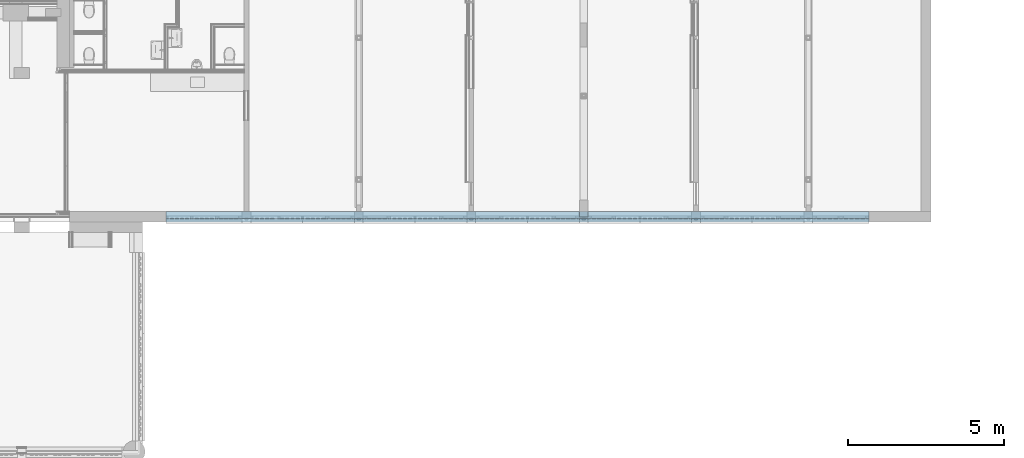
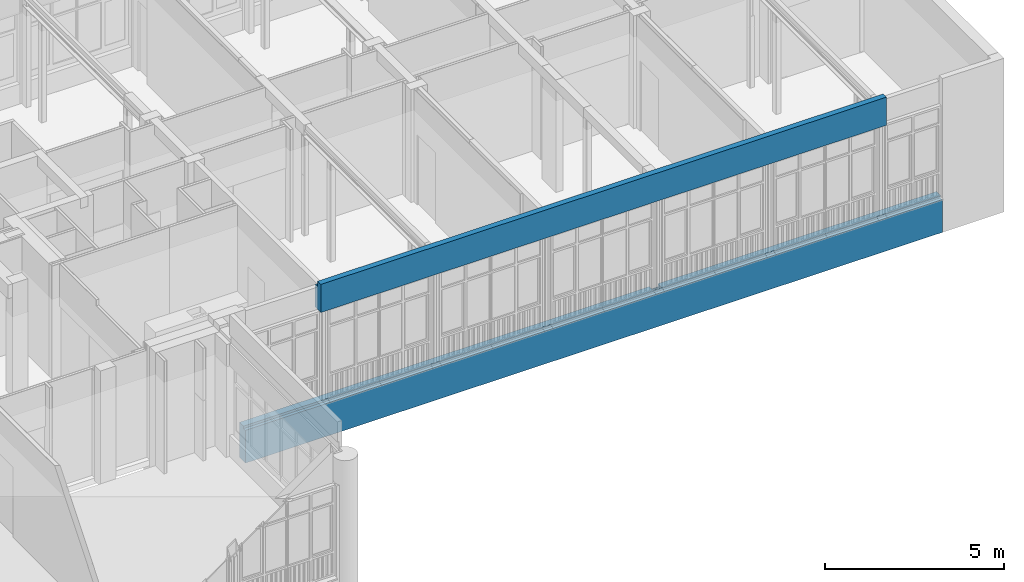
# One storey, part 92 of 135: 1 wall, 12 openings.
"""IFC2X3 building model written with IfcOpenShell, lengths in millimetres."""

from ifc_helpers import new_model, entity, si_unit, converted_unit, derived_unit, money_unit, direction, frame, origin_with_axes, place, context, subcontext, project, spatial, faceted_brep, material, type_object, element, save


model = new_model("IFC2X3")

# Units and contexts
model_context = context("Model", 3, precision=0.01, world=origin_with_axes(), true_north=direction((0.0, 1.0)))
body_context = subcontext(model_context, "Body", "Model", "MODEL_VIEW")
ifc_project = project(units=[si_unit("LENGTHUNIT", "METRE", prefix="MILLI"), si_unit("AREAUNIT", "SQUARE_METRE"), si_unit("VOLUMEUNIT", "CUBIC_METRE"), converted_unit("PLANEANGLEUNIT", "DEGREE", entity("IfcPlaneAngleMeasure", 0.0174532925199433), si_unit("PLANEANGLEUNIT", "RADIAN"), dimensions=[0, 0, 0, 0, 0, 0, 0]), money_unit("EUR"), converted_unit("TIMEUNIT", "Year", entity("IfcTimeMeasure", 31557600.0), si_unit("TIMEUNIT", "SECOND"), dimensions=[0, 0, 1, 0, 0, 0, 0]), si_unit("MASSUNIT", "GRAM", prefix="KILO"), si_unit("THERMODYNAMICTEMPERATUREUNIT", "DEGREE_CELSIUS"), si_unit("LUMINOUSINTENSITYUNIT", "LUMEN"), si_unit("ENERGYUNIT", "JOULE", prefix="MEGA"), derived_unit("THERMALCONDUCTANCEUNIT", [(si_unit("POWERUNIT", "WATT"), 1), (si_unit("LENGTHUNIT", "METRE"), -1), (si_unit("THERMODYNAMICTEMPERATUREUNIT", "KELVIN"), -1)]), derived_unit("SPECIFICHEATCAPACITYUNIT", [(si_unit("ENERGYUNIT", "JOULE"), 1), (si_unit("MASSUNIT", "GRAM", prefix="KILO"), -1), (si_unit("THERMODYNAMICTEMPERATUREUNIT", "KELVIN"), -1)]), derived_unit("MASSDENSITYUNIT", [(si_unit("MASSUNIT", "GRAM", prefix="KILO"), 1), (si_unit("VOLUMEUNIT", "CUBIC_METRE"), -1)])], contexts=[model_context])

# Site, building, storey
site_placement = place(None, origin_with_axes())
site = spatial("IfcSite", under=ifc_project, at=site_placement, Name="Site", CompositionType="ELEMENT")
building_placement = place(site_placement, origin_with_axes())
building = spatial("IfcBuilding", under=site, at=building_placement, Name="Naam gebouw", CompositionType="ELEMENT")
storey_placement = place(building_placement, origin_with_axes())
storey = spatial("IfcBuildingStorey", under=building, at=storey_placement, Name="Begane grond N", CompositionType="ELEMENT", Elevation=0.0)

# Wall, openings
ifc_material = material(Name="ALG - CONSTRUCTIEF")
wall_type = type_object("IfcWallType", Name="ALG - CONSTRUCTIEF 330", PredefinedType="NOTDEFINED")
wall_placement = place(storey_placement, frame((55937.49999999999, 10990.91242510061, -1200.0), z_axis=(0.0, 0.0, 1.0), x_axis=(-1.0, 0.0, 0.0)))
wall = element("IfcWall", 1, at=wall_placement, inside=storey, type_object=wall_type, material=ifc_material, Name="_Wand-x", context=body_context, shape_type="Brep", body=[
    faceted_brep([(20074.81802574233, 146.0000000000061, 5050.000000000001), (20074.81802574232, 146.0000000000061, 4290.0), (20074.99999999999, 146.0000000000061, 4290.0), (20074.99999999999, 146.0000000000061, 5250.000000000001), (1799.999999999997, 146.0000000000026, 5250.000000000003), (1799.999999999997, 146.0000000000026, 5050.000000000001), (8999.931661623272, 146.0000000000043, 5050.000000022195), (8999.931661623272, 146.0000000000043, 5150.0), (9274.935214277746, 146.0000000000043, 5150.0), (9274.935214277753, 146.0000000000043, 5050.000000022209), (20074.81802574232, 0.0, 4290.0), (20074.81802574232, 0.0, 5050.000000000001), (19799.99999999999, 260.0000000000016, 4290.0), (19799.99999999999, 216.0000000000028, 4290.0), (20074.99999999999, 216.0000000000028, 4290.0), (9274.43124712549, 0.0, 4290.0), (9274.99999999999, 164.5001742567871, 4290.0), (8999.998797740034, 165.4494284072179, 4290.0), (8999.427694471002, 0.0, 4290.0), (1799.999999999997, 0.0, 4290.0), (1799.999999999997, 145.999999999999, 4290.0), (1799.999999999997, 216.0000000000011, 4290.0), (2074.999999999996, 216.0000000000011, 4290.0), (2074.999999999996, 260.0000000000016, 4290.0), (1799.999999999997, 260.0000000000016, 4290.0), (1799.999999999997, 330.0000000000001, 4290.0), (20074.99999999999, 330.0000000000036, 4290.0), (20074.99999999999, 260.0000000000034, 4290.0), (5399.999999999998, 216.0000000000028, 4290.0), (5674.999999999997, 216.0000000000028, 4290.0), (5674.999999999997, 260.0000000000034, 4290.0), (5399.999999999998, 260.0000000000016, 4290.0), (9274.99999999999, 260.0000000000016, 4290.0), (8999.999999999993, 259.9999999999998, 4290.0), (8999.999999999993, 216.0000000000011, 4290.0), (9274.99999999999, 216.0000000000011, 4290.0), (12599.99999999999, 216.0000000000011, 4290.0), (12874.99999999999, 216.0000000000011, 4290.0), (12874.99999999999, 260.0000000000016, 4290.0), (12599.99999999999, 259.9999999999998, 4290.0), (16474.99999999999, 260.0000000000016, 4290.0), (16200.0, 259.9999999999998, 4290.0), (16200.0, 216.0000000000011, 4290.0), (16474.99999999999, 216.0000000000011, 4290.0), (20074.99999999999, 330.0000000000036, 5250.000000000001), (1799.999999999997, 330.0000000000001, 5250.000000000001), (8999.427694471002, 0.0, 5050.000000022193), (1799.999999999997, 0.0, 5050.000000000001), (8999.998797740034, 165.4494284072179, 5150.0), (9274.99907373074, 164.5001742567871, 5150.0), (9274.43124712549, 0.0, 5050.00000002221), (9262.499999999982, 164.543318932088, 5050.000000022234), (9262.499999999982, 164.543318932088, 4750.0), (9137.500000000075, 164.974797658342, 4750.0), (9137.500000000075, 164.974797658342, 5050.000000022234), (9262.499999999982, 164.974797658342, 5050.000000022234), (9262.499999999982, 164.974797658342, 4750.0)], [[[0, 1, 2, 3, 4, 5, 6, 7, 8, 9]], [[10, 1, 0, 11]], [[12, 13, 14, 2, 1, 10, 15, 16, 17, 18, 19, 20, 21, 22, 23, 24, 25, 26, 27], [28, 29, 30, 31], [32, 33, 34, 35], [36, 37, 38, 39], [40, 41, 42, 43]], [[26, 44, 3, 2, 14, 27]], [[45, 4, 3, 44]], [[20, 5, 4, 45, 25, 24, 21]], [[46, 6, 5, 47]], [[6, 46, 18, 17, 48, 7]], [[49, 8, 7, 48]], [[8, 49, 16, 15, 50, 9]], [[11, 0, 9, 50]], [[11, 50, 15, 10]], [[13, 12, 27, 14]], [[49, 48, 17, 16], [51, 52, 53, 54]], [[19, 18, 46, 47]], [[19, 47, 5, 20]], [[21, 24, 23, 22]], [[45, 44, 26, 25]], [[31, 30, 29, 28]], [[35, 34, 33, 32]], [[39, 38, 37, 36]], [[43, 42, 41, 40]], [[55, 56, 52, 51]], [[56, 53, 52]], [[56, 55, 54, 53]], [[54, 55, 51]]]),
    faceted_brep([(22514.99999999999, 225.0000000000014, 1200.000000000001), (20074.99999999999, 225.0000000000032, 1200.000000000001), (20074.99999999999, 216.0000000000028, 1200.000000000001), (19799.99999999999, 216.0000000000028, 1200.000000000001), (19799.99999999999, 225.0000000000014, 1200.000000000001), (16475.0, 225.0000000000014, 1200.000000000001), (16474.99999999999, 216.0000000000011, 1200.000000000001), (16200.0, 216.0000000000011, 1200.000000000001), (16199.99999999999, 224.9999999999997, 1200.000000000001), (12875.0, 225.0000000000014, 1200.000000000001), (12874.99999999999, 216.0000000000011, 1200.000000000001), (12599.99999999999, 216.0000000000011, 1200.000000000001), (12599.99999999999, 224.9999999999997, 1200.000000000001), (9274.999999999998, 225.0000000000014, 1200.000000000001), (9274.99999999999, 216.0000000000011, 1200.000000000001), (8999.999999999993, 216.0000000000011, 1200.0), (8999.999999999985, 224.9999999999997, 1200.0), (5674.999999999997, 225.0000000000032, 1200.0), (5674.999999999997, 216.0000000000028, 1200.0), (5399.999999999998, 216.0000000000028, 1200.0), (5399.999999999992, 225.0000000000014, 1200.0), (2075.000000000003, 225.0000000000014, 1200.0), (2074.999999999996, 216.0000000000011, 1200.0), (1799.999999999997, 216.0000000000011, 1200.0), (1799.999999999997, 224.9999999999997, 1200.0), (0.0, 225.0000000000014, 1200.0), (0.0, 146.0000000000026, 1200.0), (1799.999999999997, 145.999999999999, 1200.0), (1799.999999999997, 0.0, 1200.0), (8999.427694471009, 0.0, 1200.0), (8999.998797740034, 165.4494284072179, 1200.0), (9274.99999999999, 164.5001742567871, 1200.000000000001), (9274.431247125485, 0.0, 1200.0), (20074.81802574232, 0.0, 1200.000000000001), (20074.81802574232, 146.0000000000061, 1200.000000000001), (22514.99999999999, 146.0000000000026, 1200.000000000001), (20074.99999999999, 225.0000000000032, 1120.000000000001), (22514.99999999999, 225.0000000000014, 1120.000000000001), (19799.99999999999, 225.0000000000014, 1120.000000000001), (16475.0, 225.0000000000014, 1120.000000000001), (16199.99999999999, 224.9999999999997, 1120.000000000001), (12875.0, 225.0000000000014, 1120.000000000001), (12599.99999999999, 224.9999999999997, 1120.000000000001), (9274.999999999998, 225.0000000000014, 1120.000000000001), (8999.999999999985, 224.9999999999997, 1120.0), (5674.999999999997, 225.0000000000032, 1120.0), (5399.999999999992, 225.0000000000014, 1120.0), (2075.000000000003, 225.0000000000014, 1120.0), (1799.999999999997, 224.9999999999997, 1120.0), (0.0, 225.0000000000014, 1120.0), (0.0, 330.0000000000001, 1120.0), (0.0, 330.0000000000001, 0.0), (0.0, 0.0, 0.0), (0.0, 0.0, 1200.0), (22514.99999999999, 0.0, 1200.0), (9274.431247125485, 0.0, 1100.0), (8999.427694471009, 0.0, 1100.0), (22514.99999999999, 0.0, 0.0), (8999.998797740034, 165.4494284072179, 1100.0), (9274.99907373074, 164.5001742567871, 1100.0), (22514.99999999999, 330.0000000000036, 0.0), (22514.99999999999, 330.0000000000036, 1120.000000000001), (20074.99999999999, 330.0000000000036, 1120.000000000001), (19799.99999999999, 330.0000000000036, 1120.000000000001), (16475.0, 330.0000000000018, 1120.000000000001), (16199.99999999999, 330.0000000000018, 1120.000000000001), (12875.0, 330.0000000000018, 1120.000000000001), (12599.99999999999, 330.0000000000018, 1120.000000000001), (9274.999999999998, 330.0000000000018, 1120.000000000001), (8999.999999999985, 330.0000000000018, 1120.0), (5674.999999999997, 330.0000000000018, 1120.0), (5399.999999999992, 330.0000000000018, 1120.0), (2075.000000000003, 330.0000000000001, 1120.0), (1799.999999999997, 330.0000000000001, 1120.0)], [[[0, 1, 2, 3, 4, 5, 6, 7, 8, 9, 10, 11, 12, 13, 14, 15, 16, 17, 18, 19, 20, 21, 22, 23, 24, 25, 26, 27, 28, 29, 30, 31, 32, 33, 34, 35]], [[36, 1, 0, 37]], [[1, 4, 3, 2]], [[38, 39, 5, 4]], [[6, 5, 8, 7]], [[9, 8, 40, 41]], [[12, 11, 10, 9]], [[42, 43, 13, 12]], [[14, 13, 16, 15]], [[17, 16, 44, 45]], [[20, 19, 18, 17]], [[46, 47, 21, 20]], [[22, 21, 24, 23]], [[24, 48, 49, 25]], [[50, 51, 52, 53, 26, 25, 49]], [[28, 27, 26, 53]], [[54, 33, 32, 55, 56, 29, 28, 53, 52, 57]], [[29, 56, 58, 30]], [[30, 58, 59, 31]], [[31, 59, 55, 32]], [[34, 33, 54, 35]], [[37, 0, 35, 54, 57, 60, 61]], [[1, 36, 38, 4]], [[62, 36, 37, 61]], [[63, 64, 39, 38]], [[8, 5, 39, 40]], [[41, 40, 65, 66]], [[41, 42, 12, 9]], [[67, 68, 43, 42]], [[16, 13, 43, 44]], [[45, 44, 69, 70]], [[45, 46, 20, 17]], [[71, 72, 47, 46]], [[24, 21, 47, 48]], [[48, 73, 50, 49]], [[62, 61, 60, 51, 50, 73, 72, 71, 70, 69, 68, 67, 66, 65, 64, 63]], [[51, 60, 57, 52]], [[59, 58, 56, 55]], [[36, 62, 63, 38]], [[40, 39, 64, 65]], [[66, 67, 42, 41]], [[44, 43, 68, 69]], [[70, 71, 46, 45]], [[48, 47, 72, 73]]]),
])
opening_1_placement = place(wall_placement, frame((4568.749999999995, 0.0, 1200.0), z_axis=(0.0, 0.0, 1.0), x_axis=(1.0, 0.0, 0.0)))
element("IfcOpeningElement", 2, at=opening_1_placement, cuts=wall, Name="_Merk-006", context=body_context, shape_type="Brep", body=[
    faceted_brep([(-831.2499999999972, 331.000000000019, 0.0), (-831.2499999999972, 260.0000000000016, 0.0), (-831.2499999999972, 260.0000000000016, 3090.0), (-831.2499999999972, 331.0000000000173, 3090.0), (-831.2499999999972, 225.0000000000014, 0.0), (-831.2499999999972, -1.000000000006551, 0.0), (-831.2499999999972, -1.000000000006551, 3090.0), (-831.2499999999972, 331.000000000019, -80.00000000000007), (-831.2499999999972, 225.0000000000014, -80.00000000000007), (1106.250000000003, 260.0000000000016, 3090.0), (1106.250000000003, 331.0000000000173, 3090.0), (1106.250000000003, -1.000000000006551, 3090.0), (1106.250000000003, 331.0000000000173, 0.0), (831.2499999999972, 331.000000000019, 0.0), (831.2499999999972, 331.000000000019, -80.00000000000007), (831.2499999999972, 225.0000000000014, 0.0), (1106.250000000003, 260.0000000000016, 0.0), (1106.250000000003, -1.000000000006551, 0.0), (831.2499999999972, 225.0000000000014, -80.00000000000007)], [[[0, 1, 2, 3]], [[4, 5, 6, 2, 1, 0, 7, 8]], [[9, 10, 3, 2, 6, 11]], [[0, 3, 10, 12, 13, 14, 7]], [[15, 13, 12, 16, 17, 5, 4]], [[6, 5, 17, 11]], [[18, 8, 7, 14]], [[15, 4, 8, 18]], [[9, 16, 12, 10]], [[16, 9, 11, 17]], [[13, 15, 18, 14]]]),
])
opening_2_placement = place(wall_placement, frame((899.9999999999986, 0.0, 1200.0), z_axis=(0.0, 0.0, 1.0), x_axis=(1.0, 0.0, 0.0)))
element("IfcOpeningElement", 3, at=opening_2_placement, cuts=wall, Name="_Merk-005", context=body_context, shape_type="Brep", body=[
    faceted_brep([(-899.9999999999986, 331.0000000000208, 0.0), (-899.9999999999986, 260.0000000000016, 0.0), (-899.9999999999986, 260.0000000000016, 4090.0), (-899.9999999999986, 331.0000000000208, 4090.0), (-899.9999999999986, 225.0000000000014, 0.0), (-899.9999999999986, -1.000000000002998, 0.0), (-899.9999999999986, -1.000000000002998, 4090.0), (-899.9999999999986, 331.0000000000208, -80.00000000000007), (-899.9999999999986, 225.0000000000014, -80.00000000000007), (899.9999999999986, 259.9999999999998, 4090.0), (899.9999999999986, 331.000000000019, 4090.0), (899.9999999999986, -1.000000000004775, 4090.0), (899.9999999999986, 331.000000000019, 0.0), (899.9999999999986, 331.000000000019, -80.00000000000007), (899.9999999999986, 224.9999999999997, 0.0), (899.9999999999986, -1.000000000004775, 0.0), (899.9999999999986, 224.9999999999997, -80.00000000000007), (899.9999999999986, 259.9999999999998, 0.0)], [[[0, 1, 2, 3]], [[4, 5, 6, 2, 1, 0, 7, 8]], [[9, 10, 3, 2, 6, 11]], [[0, 3, 10, 12, 13, 7]], [[4, 14, 15, 5]], [[6, 5, 15, 11]], [[16, 8, 7, 13]], [[14, 4, 8, 16]], [[17, 12, 10, 9]], [[17, 9, 11, 15, 14, 16, 13, 12]]]),
])
opening_3_placement = place(wall_placement, frame((2906.25, 0.0, 1200.0), z_axis=(0.0, 0.0, 1.0), x_axis=(1.0, 0.0, 0.0)))
element("IfcOpeningElement", 4, at=opening_3_placement, cuts=wall, Name="_Merk-006sp", context=body_context, shape_type="Brep", body=[
    faceted_brep([(-831.2499999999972, 331.0000000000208, 0.0), (-831.2499999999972, 225.0000000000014, 0.0), (831.2499999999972, 224.9999999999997, 0.0), (831.2499999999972, -1.000000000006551, 0.0), (-1106.250000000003, -1.000000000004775, 0.0), (-1106.250000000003, 260.0000000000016, 0.0), (-1106.250000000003, 331.000000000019, 0.0), (-831.2499999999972, 331.0000000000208, -80.00000000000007), (-831.2499999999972, 225.0000000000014, -80.00000000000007), (831.2499999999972, 224.9999999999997, -80.00000000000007), (831.2499999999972, 259.9999999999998, 0.0), (831.2499999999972, 259.9999999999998, 3090.0), (831.2499999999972, -1.000000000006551, 3090.0), (831.2499999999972, 331.000000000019, -80.00000000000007), (831.2499999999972, 331.000000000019, 0.0), (-1106.250000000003, -1.000000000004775, 3090.0), (-1106.250000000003, 260.0000000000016, 3090.0), (-1106.250000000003, 331.000000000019, 3090.0), (831.2499999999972, 331.0000000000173, 3090.0)], [[[0, 1, 2, 3, 4, 5, 6]], [[1, 0, 7, 8]], [[2, 1, 8, 9]], [[10, 11, 12, 3, 2, 9, 13, 14]], [[15, 4, 3, 12]], [[16, 5, 4, 15]], [[5, 16, 17, 6]], [[0, 6, 17, 18, 14, 13, 7]], [[9, 8, 7, 13]], [[10, 14, 18, 11]], [[11, 18, 17, 16, 15, 12]]]),
])
opening_4_placement = place(wall_placement, frame((8168.749999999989, 0.0, 1200.0), z_axis=(0.0, 0.0, 1.0), x_axis=(1.0, 0.0, 0.0)))
element("IfcOpeningElement", 5, at=opening_4_placement, cuts=wall, Name="_Merk-006", context=body_context, shape_type="Brep", body=[
    faceted_brep([(-831.2499999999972, 331.0000000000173, 0.0), (-831.2499999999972, 260.0000000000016, 0.0), (-831.2499999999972, 260.0000000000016, 3090.0), (-831.2499999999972, 331.0000000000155, 3090.0), (-831.2499999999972, 225.0000000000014, 0.0), (-831.2499999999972, -1.000000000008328, 0.0), (-831.2499999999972, -1.000000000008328, 3090.0), (-831.2499999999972, 331.0000000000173, -80.00000000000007), (-831.2499999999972, 225.0000000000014, -80.00000000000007), (1106.250000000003, 259.9999999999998, 3090.0), (1106.250000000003, 331.0000000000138, 3090.0), (1106.250000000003, -1.000000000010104, 3090.0), (1106.250000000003, 331.0000000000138, 0.0), (831.2499999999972, 331.0000000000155, 0.0), (831.2499999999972, 331.0000000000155, -80.00000000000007), (831.2499999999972, 224.9999999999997, 0.0), (1106.250000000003, 259.9999999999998, 0.0), (1106.250000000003, -1.000000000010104, 0.0), (831.2499999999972, 224.9999999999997, -80.00000000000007)], [[[0, 1, 2, 3]], [[4, 5, 6, 2, 1, 0, 7, 8]], [[9, 10, 3, 2, 6, 11]], [[0, 3, 10, 12, 13, 14, 7]], [[15, 13, 12, 16, 17, 5, 4]], [[6, 5, 17, 11]], [[18, 8, 7, 14]], [[15, 4, 8, 18]], [[9, 16, 12, 10]], [[16, 9, 11, 17]], [[13, 15, 18, 14]]]),
])
opening_5_placement = place(wall_placement, frame((6506.249999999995, 0.0, 1200.0), z_axis=(0.0, 0.0, 1.0), x_axis=(1.0, 0.0, 0.0)))
element("IfcOpeningElement", 6, at=opening_5_placement, cuts=wall, Name="_Merk-006sp", context=body_context, shape_type="Brep", body=[
    faceted_brep([(-831.2499999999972, 331.000000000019, 0.0), (-831.2499999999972, 225.0000000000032, 0.0), (831.2499999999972, 225.0000000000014, 0.0), (831.2499999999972, -1.000000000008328, 0.0), (-1106.250000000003, -1.000000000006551, 0.0), (-1106.250000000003, 260.0000000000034, 0.0), (-1106.250000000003, 331.0000000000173, 0.0), (-831.2499999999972, 331.000000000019, -80.00000000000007), (-831.2499999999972, 225.0000000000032, -80.00000000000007), (831.2499999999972, 225.0000000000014, -80.00000000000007), (831.2499999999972, 260.0000000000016, 0.0), (831.2499999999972, 260.0000000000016, 3090.0), (831.2499999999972, -1.000000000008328, 3090.0), (831.2499999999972, 331.0000000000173, -80.00000000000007), (831.2499999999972, 331.0000000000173, 0.0), (-1106.250000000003, -1.000000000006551, 3090.0), (-1106.250000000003, 260.0000000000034, 3090.0), (-1106.250000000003, 331.0000000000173, 3090.0), (831.2499999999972, 331.0000000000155, 3090.0)], [[[0, 1, 2, 3, 4, 5, 6]], [[1, 0, 7, 8]], [[2, 1, 8, 9]], [[10, 11, 12, 3, 2, 9, 13, 14]], [[15, 4, 3, 12]], [[16, 5, 4, 15]], [[5, 16, 17, 6]], [[0, 6, 17, 18, 14, 13, 7]], [[9, 8, 7, 13]], [[10, 14, 18, 11]], [[11, 18, 17, 16, 15, 12]]]),
])
opening_6_placement = place(wall_placement, frame((11768.74999999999, 0.0, 1200.000000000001), z_axis=(0.0, 0.0, 1.0), x_axis=(1.0, 0.0, 0.0)))
element("IfcOpeningElement", 7, at=opening_6_placement, cuts=wall, Name="_Merk-006", context=body_context, shape_type="Brep", body=[
    faceted_brep([(-831.2499999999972, 331.0000000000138, 0.0), (-831.2499999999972, 260.0000000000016, 0.0), (-831.2499999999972, 260.0000000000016, 3089.999999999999), (-831.2499999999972, 331.0000000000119, 3089.999999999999), (-831.2499999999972, 225.0000000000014, 0.0), (-831.2499999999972, -1.00000000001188, 0.0), (-831.2499999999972, -1.00000000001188, 3089.999999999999), (-831.2499999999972, 331.0000000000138, -80.00000000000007), (-831.2499999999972, 225.0000000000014, -80.00000000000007), (1106.250000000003, 259.9999999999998, 3089.999999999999), (1106.250000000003, 331.0000000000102, 3089.999999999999), (1106.250000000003, -1.000000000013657, 3089.999999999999), (1106.250000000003, 331.0000000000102, 0.0), (831.2499999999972, 331.0000000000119, 0.0), (831.2499999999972, 331.0000000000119, -80.00000000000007), (831.2499999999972, 224.9999999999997, 0.0), (1106.250000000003, 259.9999999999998, 0.0), (1106.250000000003, -1.000000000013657, 0.0), (831.2499999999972, 224.9999999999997, -80.00000000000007)], [[[0, 1, 2, 3]], [[4, 5, 6, 2, 1, 0, 7, 8]], [[9, 10, 3, 2, 6, 11]], [[0, 3, 10, 12, 13, 14, 7]], [[15, 13, 12, 16, 17, 5, 4]], [[6, 5, 17, 11]], [[18, 8, 7, 14]], [[15, 4, 8, 18]], [[9, 16, 12, 10]], [[16, 9, 11, 17]], [[13, 15, 18, 14]]]),
])
opening_7_placement = place(wall_placement, frame((10106.25, 0.0, 1200.000000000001), z_axis=(0.0, 0.0, 1.0), x_axis=(1.0, 0.0, 0.0)))
element("IfcOpeningElement", 8, at=opening_7_placement, cuts=wall, Name="_Merk-006sp", context=body_context, shape_type="Brep", body=[
    faceted_brep([(-831.2499999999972, 331.0000000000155, 0.0), (-831.2499999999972, 225.0000000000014, 0.0), (831.2499999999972, 224.9999999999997, 0.0), (831.2499999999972, -1.00000000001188, 0.0), (-1106.250000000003, -1.000000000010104, 0.0), (-1106.250000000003, 260.0000000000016, 0.0), (-1106.250000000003, 331.0000000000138, 0.0), (-831.2499999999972, 331.0000000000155, -80.00000000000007), (-831.2499999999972, 225.0000000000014, -80.00000000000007), (831.2499999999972, 224.9999999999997, -80.00000000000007), (831.2499999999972, 259.9999999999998, 0.0), (831.2499999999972, 259.9999999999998, 3089.999999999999), (831.2499999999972, -1.00000000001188, 3089.999999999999), (831.2499999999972, 331.0000000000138, -80.00000000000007), (831.2499999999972, 331.0000000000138, 0.0), (-1106.250000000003, -1.000000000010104, 3089.999999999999), (-1106.250000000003, 260.0000000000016, 3089.999999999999), (-1106.250000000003, 331.0000000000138, 3089.999999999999), (831.2499999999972, 331.0000000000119, 3089.999999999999)], [[[0, 1, 2, 3, 4, 5, 6]], [[1, 0, 7, 8]], [[2, 1, 8, 9]], [[10, 11, 12, 3, 2, 9, 13, 14]], [[15, 4, 3, 12]], [[16, 5, 4, 15]], [[5, 16, 17, 6]], [[0, 6, 17, 18, 14, 13, 7]], [[9, 8, 7, 13]], [[10, 14, 18, 11]], [[11, 18, 17, 16, 15, 12]]]),
])
opening_8_placement = place(wall_placement, frame((15368.74999999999, 0.0, 1200.000000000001), z_axis=(0.0, 0.0, 1.0), x_axis=(1.0, 0.0, 0.0)))
element("IfcOpeningElement", 9, at=opening_8_placement, cuts=wall, Name="_Merk-006", context=body_context, shape_type="Brep", body=[
    faceted_brep([(-831.2499999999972, 331.0000000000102, 0.0), (-831.2499999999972, 260.0000000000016, 0.0), (-831.2499999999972, 260.0000000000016, 3089.999999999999), (-831.2499999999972, 331.0000000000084, 3089.999999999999), (-831.2499999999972, 225.0000000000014, 0.0), (-831.2499999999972, -1.000000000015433, 0.0), (-831.2499999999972, -1.000000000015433, 3089.999999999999), (-831.2499999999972, 331.0000000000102, -80.00000000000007), (-831.2499999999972, 225.0000000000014, -80.00000000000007), (1106.250000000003, 259.9999999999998, 3089.999999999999), (1106.250000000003, 331.0000000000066, 3089.999999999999), (1106.250000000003, -1.000000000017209, 3089.999999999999), (1106.250000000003, 331.0000000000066, 0.0), (831.2499999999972, 331.0000000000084, 0.0), (831.2499999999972, 331.0000000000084, -80.00000000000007), (831.2499999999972, 224.9999999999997, 0.0), (1106.250000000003, 259.9999999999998, 0.0), (1106.250000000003, -1.000000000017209, 0.0), (831.2499999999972, 224.9999999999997, -80.00000000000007)], [[[0, 1, 2, 3]], [[4, 5, 6, 2, 1, 0, 7, 8]], [[9, 10, 3, 2, 6, 11]], [[0, 3, 10, 12, 13, 14, 7]], [[15, 13, 12, 16, 17, 5, 4]], [[6, 5, 17, 11]], [[18, 8, 7, 14]], [[15, 4, 8, 18]], [[9, 16, 12, 10]], [[16, 9, 11, 17]], [[13, 15, 18, 14]]]),
])
opening_9_placement = place(wall_placement, frame((13706.25, 0.0, 1200.000000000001), z_axis=(0.0, 0.0, 1.0), x_axis=(1.0, 0.0, 0.0)))
element("IfcOpeningElement", 10, at=opening_9_placement, cuts=wall, Name="_Merk-006sp", context=body_context, shape_type="Brep", body=[
    faceted_brep([(-831.2499999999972, 331.0000000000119, 0.0), (-831.2499999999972, 225.0000000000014, 0.0), (831.2499999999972, 224.9999999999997, 0.0), (831.2499999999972, -1.000000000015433, 0.0), (-1106.250000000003, -1.000000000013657, 0.0), (-1106.250000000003, 260.0000000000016, 0.0), (-1106.250000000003, 331.0000000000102, 0.0), (-831.2499999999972, 331.0000000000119, -80.00000000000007), (-831.2499999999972, 225.0000000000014, -80.00000000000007), (831.2499999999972, 224.9999999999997, -80.00000000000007), (831.2499999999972, 259.9999999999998, 0.0), (831.2499999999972, 259.9999999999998, 3089.999999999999), (831.2499999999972, -1.000000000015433, 3089.999999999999), (831.2499999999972, 331.0000000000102, -80.00000000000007), (831.2499999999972, 331.0000000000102, 0.0), (-1106.250000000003, -1.000000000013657, 3089.999999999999), (-1106.250000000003, 260.0000000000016, 3089.999999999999), (-1106.250000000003, 331.0000000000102, 3089.999999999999), (831.2499999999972, 331.0000000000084, 3089.999999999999)], [[[0, 1, 2, 3, 4, 5, 6]], [[1, 0, 7, 8]], [[2, 1, 8, 9]], [[10, 11, 12, 3, 2, 9, 13, 14]], [[15, 4, 3, 12]], [[16, 5, 4, 15]], [[5, 16, 17, 6]], [[0, 6, 17, 18, 14, 13, 7]], [[9, 8, 7, 13]], [[10, 14, 18, 11]], [[11, 18, 17, 16, 15, 12]]]),
])
opening_10_placement = place(wall_placement, frame((18968.74999999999, 0.0, 1200.000000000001), z_axis=(0.0, 0.0, 1.0), x_axis=(1.0, 0.0, 0.0)))
element("IfcOpeningElement", 11, at=opening_10_placement, cuts=wall, Name="_Merk-006A", context=body_context, shape_type="Brep", body=[
    faceted_brep([(-831.2499999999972, 331.0000000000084, 0.0), (-831.2499999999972, 260.0000000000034, 0.0), (-831.2499999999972, 260.0000000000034, 3089.999999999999), (-831.2499999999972, 331.0000000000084, 3089.999999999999), (-831.2499999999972, 225.0000000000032, 0.0), (-831.2499999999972, -1.000000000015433, 0.0), (-831.2499999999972, -1.000000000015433, 3089.999999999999), (-831.2499999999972, 331.0000000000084, -80.00000000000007), (-831.2499999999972, 225.0000000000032, -80.00000000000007), (1106.250000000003, 260.0000000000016, 3089.999999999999), (1106.250000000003, 331.0000000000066, 3089.999999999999), (1106.250000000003, -1.000000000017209, 3089.999999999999), (1106.250000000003, 331.0000000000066, 0.0), (831.2499999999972, 331.0000000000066, 0.0), (831.2499999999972, 331.0000000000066, -80.00000000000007), (831.2499999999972, 225.0000000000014, 0.0), (1106.250000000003, 260.0000000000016, 0.0), (1106.250000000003, -1.000000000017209, 0.0), (831.2499999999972, 225.0000000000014, -80.00000000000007)], [[[0, 1, 2, 3]], [[4, 5, 6, 2, 1, 0, 7, 8]], [[9, 10, 3, 2, 6, 11]], [[0, 3, 10, 12, 13, 14, 7]], [[15, 13, 12, 16, 17, 5, 4]], [[6, 5, 17, 11]], [[18, 8, 7, 14]], [[15, 4, 8, 18]], [[9, 16, 12, 10]], [[16, 9, 11, 17]], [[13, 15, 18, 14]]]),
])
opening_11_placement = place(wall_placement, frame((17306.25, 0.0, 1200.000000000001), z_axis=(0.0, 0.0, 1.0), x_axis=(1.0, 0.0, 0.0)))
element("IfcOpeningElement", 12, at=opening_11_placement, cuts=wall, Name="_Merk-006sp", context=body_context, shape_type="Brep", body=[
    faceted_brep([(-831.2499999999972, 331.0000000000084, 0.0), (-831.2499999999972, 225.0000000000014, 0.0), (831.2499999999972, 225.0000000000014, 0.0), (831.2499999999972, -1.000000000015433, 0.0), (-1106.250000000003, -1.000000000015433, 0.0), (-1106.250000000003, 260.0000000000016, 0.0), (-1106.250000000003, 331.0000000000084, 0.0), (-831.2499999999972, 331.0000000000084, -80.00000000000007), (-831.2499999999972, 225.0000000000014, -80.00000000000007), (831.2499999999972, 225.0000000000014, -80.00000000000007), (831.2499999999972, 260.0000000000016, 0.0), (831.2499999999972, 260.0000000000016, 3089.999999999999), (831.2499999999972, -1.000000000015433, 3089.999999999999), (831.2499999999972, 331.0000000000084, -80.00000000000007), (831.2499999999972, 331.0000000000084, 0.0), (-1106.250000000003, -1.000000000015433, 3089.999999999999), (-1106.250000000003, 260.0000000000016, 3089.999999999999), (-1106.250000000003, 331.0000000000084, 3089.999999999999), (831.2499999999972, 331.0000000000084, 3089.999999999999)], [[[0, 1, 2, 3, 4, 5, 6]], [[1, 0, 7, 8]], [[2, 1, 8, 9]], [[10, 11, 12, 3, 2, 9, 13, 14]], [[15, 4, 3, 12]], [[16, 5, 4, 15]], [[5, 16, 17, 6]], [[0, 6, 17, 18, 14, 13, 7]], [[9, 8, 7, 13]], [[10, 14, 18, 11]], [[11, 18, 17, 16, 15, 12]]]),
])
opening_12_placement = place(wall_placement, frame((21294.99999999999, 0.0, 1200.000000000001), z_axis=(0.0, 0.0, 1.0), x_axis=(1.0, 0.0, 0.0)))
element("IfcOpeningElement", 13, at=opening_12_placement, cuts=wall, Name="_Merk-010", context=body_context, shape_type="Brep", body=[
    faceted_brep([(-1219.999999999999, 331.0000000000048, 0.0), (-1219.999999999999, 260.0000000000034, 0.0), (-1219.999999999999, 260.0000000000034, 4090.0), (-1219.999999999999, 331.0000000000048, 4090.0), (-1219.999999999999, 225.0000000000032, 0.0), (-1219.999999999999, -1.000000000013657, 0.0), (-1219.999999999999, -1.000000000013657, 4090.0), (-1219.999999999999, 331.0000000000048, -80.00000000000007), (-1219.999999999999, 225.0000000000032, -80.00000000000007), (1219.999999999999, 260.0000000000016, 4090.0), (1219.999999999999, 331.0000000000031, 4090.0), (1219.999999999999, -1.000000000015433, 4090.0), (1219.999999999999, 331.0000000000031, 0.0), (1219.999999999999, 331.0000000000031, -80.00000000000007), (1219.999999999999, 225.0000000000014, 0.0), (1219.999999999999, -1.000000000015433, 0.0), (1219.999999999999, 225.0000000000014, -80.00000000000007), (1219.999999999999, 260.0000000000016, 0.0)], [[[0, 1, 2, 3]], [[4, 5, 6, 2, 1, 0, 7, 8]], [[9, 10, 3, 2, 6, 11]], [[0, 3, 10, 12, 13, 7]], [[4, 14, 15, 5]], [[6, 5, 15, 11]], [[16, 8, 7, 13]], [[14, 4, 8, 16]], [[17, 12, 10, 9]], [[17, 9, 11, 15, 14, 16, 13, 12]]]),
])

save(model, "model.ifc")
